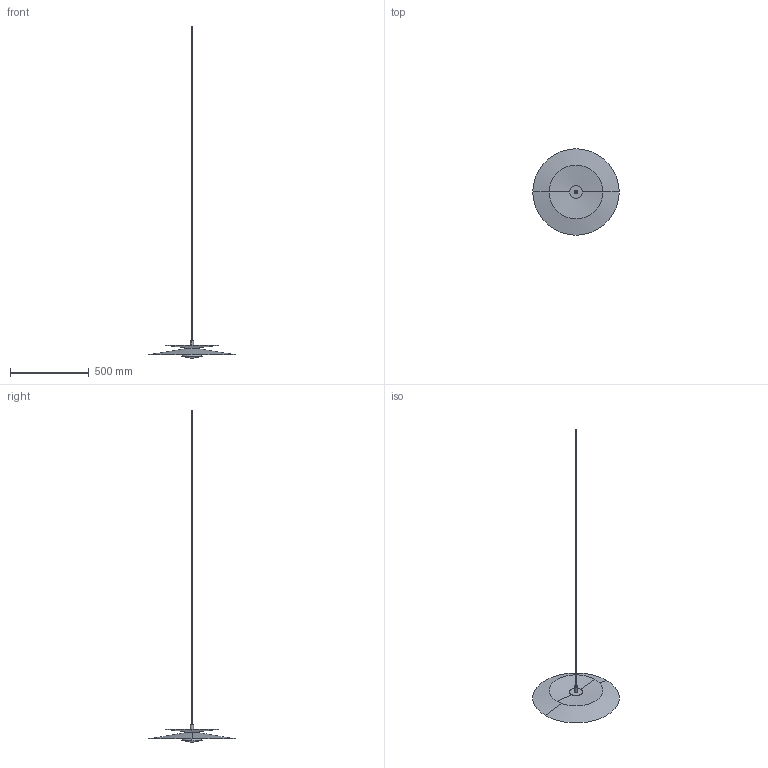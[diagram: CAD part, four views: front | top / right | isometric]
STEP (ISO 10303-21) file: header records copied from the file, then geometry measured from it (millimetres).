
FILE_DESCRIPTION(/* description */ (''),/* implementation_level */ '2;1');
FILE_NAME(/* name */ 'ILKW_LASER55_Pendant_3D',/* time_stamp */ '2026-08-28T16:14:43+09:00',/* author */ (''),/* organization */ (''),/* preprocessor_version */ 'ST-DEVELOPER v19.2',/* originating_system */ 'Rhino 8.21',/* authorisation */ '');
FILE_SCHEMA (('CONFIG_CONTROL_DESIGN'));
Length unit declared in the file: millimetre
Products named in the file (1): Document
Bounding box: 548.74 x 548.74 x 2108.91 mm (x, y, z)
Volume: 410490.4 mm3; surface area: 408480.1 mm2
Topology: 2 solids, 5 shells, 31 faces, 59 edges, 37 vertices
Faces by surface type: plane 11, cylinder 10, bspline 10
Entity records: 1251 total; most frequent: CARTESIAN_POINT 622, ORIENTED_EDGE 113, DIRECTION 89, EDGE_CURVE 59, AXIS2_PLACEMENT_3D 55, VERTEX_POINT 37, EDGE_LOOP 33, ADVANCED_FACE 31
